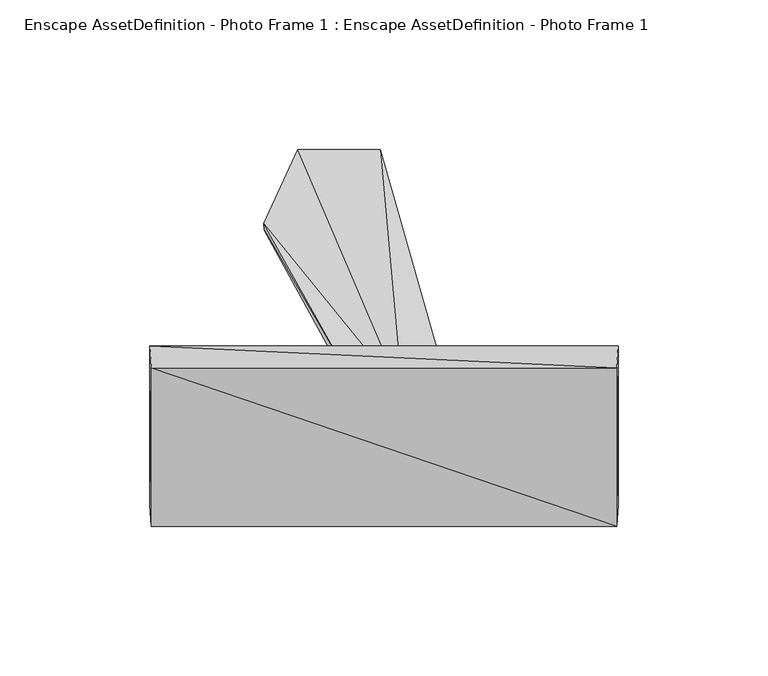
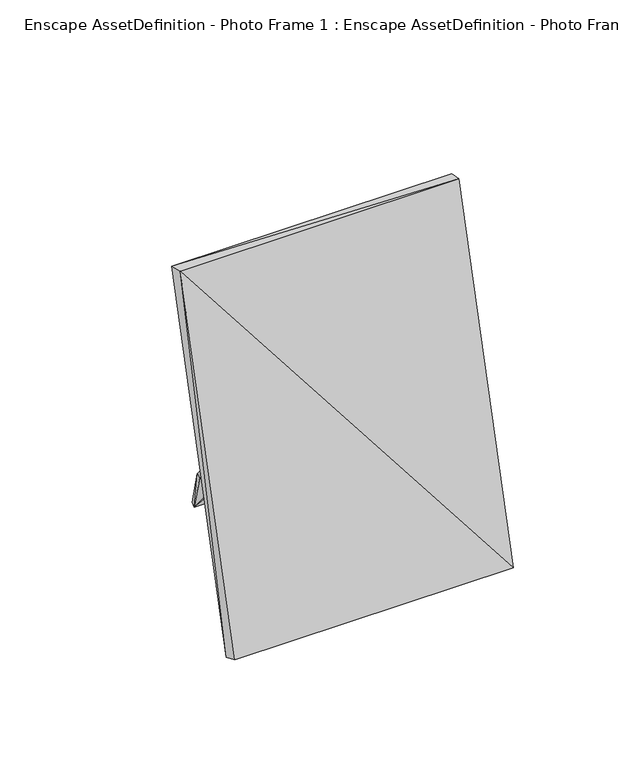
"""IFC4 building model written with IfcOpenShell, lengths in millimetres: geographic element geometry, Enscape AssetDefinition - Photo Frame 1 : Enscape AssetDefinition - Photo Frame 1."""

from ifc_helpers import new_model, si_unit, origin, place, context, project, spatial, faceted_brep, source, transform, mapped, element, save


def enscape_assetdefinition_photo_frame_1_enscape_5837e575(model_context):
    return source(origin(), model_context, "Body", "Brep", [
        faceted_brep([(94.8497355, -5.1747821, 1.9110322), (-60.4288168, 47.6258583, 198.9579201), (-60.4288168, -5.1747821, 1.9110322), (-60.9360896, 1.9078419, -0.5104594), (95.3570008, 1.9078419, -0.5104594), (95.3570008, 54.9669005, 197.5158751), (94.8497355, 47.6258583, 198.9579201), (-60.9360896, 54.9669005, 197.5158751)], [[[0, 1, 2]], [[1, 3, 2]], [[2, 4, 0]], [[0, 5, 6]], [[6, 7, 1]], [[7, 4, 3]], [[1, 0, 6]], [[3, 1, 7]], [[4, 2, 3]], [[5, 0, 4]], [[7, 6, 5]], [[4, 7, 5]]]),
        faceted_brep([(23.2227109, 38.9384776, 123.0526045), (15.9805678, 120.5130741, 1.4707611), (-11.6544254, 120.5258369, 1.4516187), (-22.8749607, 95.877029, 37.1135883), (8.901136, 38.9640033, 127.927497), (38.7119614, 36.7690288, 115.8615127), (-11.6639957, 118.4265688, 0.0), (15.9805678, 118.4265688, 0.0), (-22.8271037, 93.7618166, 35.6874913), (22.8015818, 36.7690288, 121.7764616), (8.4768161, 36.7690288, 126.6960204), (39.1458534, 38.9097631, 117.1823218)], [[[0, 1, 2]], [[0, 3, 4]], [[5, 6, 7]], [[8, 9, 10]], [[1, 5, 7]], [[7, 2, 1]], [[0, 5, 11]], [[3, 6, 8]], [[4, 8, 10]], [[10, 0, 4]], [[1, 0, 11]], [[3, 0, 2]], [[6, 5, 9]], [[9, 8, 6]], [[5, 1, 11]], [[2, 7, 6]], [[5, 0, 9]], [[6, 3, 2]], [[8, 4, 3]], [[0, 10, 9]]]),
    ])


if __name__ == "__main__":
    model = new_model("IFC4")
    model_context = context("Model", 3, world=origin())
    ifc_project = project(units=[si_unit("LENGTHUNIT", "METRE", prefix="MILLI")], contexts=[model_context])
    site = spatial("IfcSite", under=ifc_project)
    building = spatial("IfcBuilding", under=site)
    placement = place(None, origin())
    enscape_assetdefinition_photo_frame_1_enscape_shape = enscape_assetdefinition_photo_frame_1_enscape_5837e575(model_context)
    element("IfcGeographicElement", 1, ObjectType="Enscape AssetDefinition - Photo Frame 1 : Enscape AssetDefinition - Photo Frame 1", at=placement, inside=building, context=model_context, shape_type="MappedRepresentation", body=[
        mapped(enscape_assetdefinition_photo_frame_1_enscape_shape, transform((0.0, 0.0, 0.0), x_axis=(1.0, 0.0, 0.0), y_axis=(0.0, 1.0, 0.0), z_axis=(0.0, 0.0, 1.0))),
    ])
    save(model, "model.ifc")
